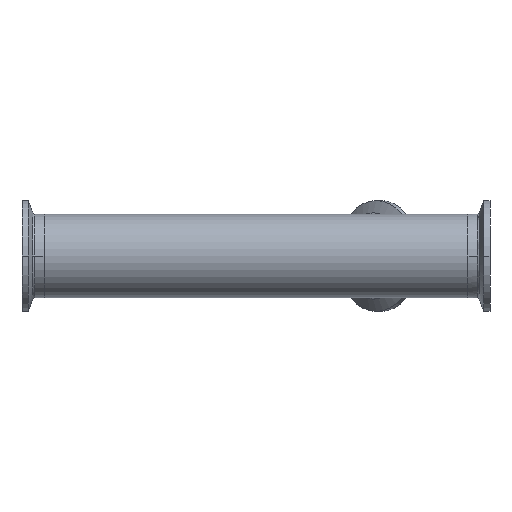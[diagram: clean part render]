
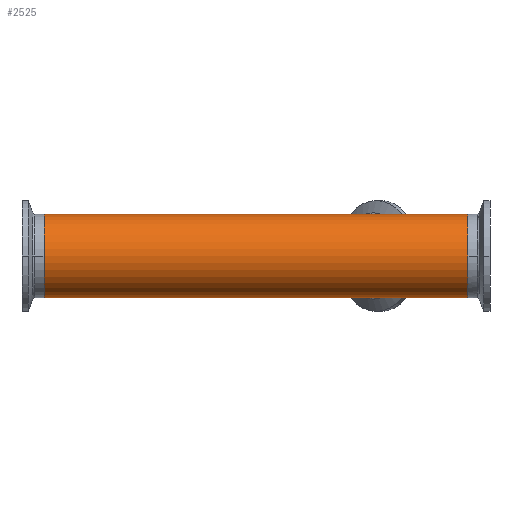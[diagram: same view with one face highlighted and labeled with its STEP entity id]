
A CAD part, front view. The second image highlights one B-rep face of the part: STEP entity #2525.
In plain terms, the highlighted cylindrical face has radius 19.05 mm (diameter 38.1 mm), a partial arc.
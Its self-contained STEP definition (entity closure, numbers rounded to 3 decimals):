
#133 = DIRECTION ( 'NONE',  ( 0., 0., -1. ) ) ;
#181 = VERTEX_POINT ( 'NONE', #3386 ) ;
#229 = DIRECTION ( 'NONE',  ( 0., 0., -1. ) ) ;
#263 = DIRECTION ( 'NONE',  ( 1., 0., 0. ) ) ;
#329 = CARTESIAN_POINT ( 'NONE',  ( 159.8, 0., -19.05 ) ) ;
#374 = EDGE_CURVE ( 'NONE', #4452, #181, #3936, .T. ) ;
#439 = VERTEX_POINT ( 'NONE', #1813 ) ;
#485 = CARTESIAN_POINT ( 'NONE',  ( -32.9, 0., 0. ) ) ;
#727 = VERTEX_POINT ( 'NONE', #731 ) ;
#731 = CARTESIAN_POINT ( 'NONE',  ( 159.8, 0., 19.05 ) ) ;
#828 = VERTEX_POINT ( 'NONE', #329 ) ;
#838 = AXIS2_PLACEMENT_3D ( 'NONE', #485, #3337, #133 ) ;
#998 = ORIENTED_EDGE ( 'NONE', *, *, #4096, .F. ) ;
#1041 = CYLINDRICAL_SURFACE ( 'NONE', #838, 19.05 ) ;
#1052 = CIRCLE ( 'NONE', #2065, 19.05 ) ;
#1079 = DIRECTION ( 'NONE',  ( 1., 0., 0. ) ) ;
#1152 = ORIENTED_EDGE ( 'NONE', *, *, #374, .F. ) ;
#1195 = LINE ( 'NONE', #3310, #3928 ) ;
#1506 = EDGE_CURVE ( 'NONE', #828, #727, #3406, .T. ) ;
#1740 = EDGE_CURVE ( 'NONE', #4452, #3839, #1052, .T. ) ;
#1744 = VECTOR ( 'NONE', #1079, 1000. ) ;
#1813 = CARTESIAN_POINT ( 'NONE',  ( 0., 0., -19.05 ) ) ;
#1872 = ORIENTED_EDGE ( 'NONE', *, *, #3829, .T. ) ;
#1976 = DIRECTION ( 'NONE',  ( 1., 0., 0. ) ) ;
#2065 = AXIS2_PLACEMENT_3D ( 'NONE', #2399, #263, #2760 ) ;
#2356 = DIRECTION ( 'NONE',  ( -1., 0., 0. ) ) ;
#2399 = CARTESIAN_POINT ( 'NONE',  ( -32.9, 0., 0. ) ) ;
#2525 = ADVANCED_FACE ( 'NONE', ( #2924 ), #1041, .T. ) ;
#2613 = EDGE_CURVE ( 'NONE', #3839, #439, #3883, .T. ) ;
#2666 = VECTOR ( 'NONE', #3171, 1000. ) ;
#2721 = LINE ( 'NONE', #2813, #1744 ) ;
#2760 = DIRECTION ( 'NONE',  ( 0., 0., -1. ) ) ;
#2813 = CARTESIAN_POINT ( 'NONE',  ( -32.9, 0., -19.05 ) ) ;
#2856 = AXIS2_PLACEMENT_3D ( 'NONE', #4478, #2356, #229 ) ;
#2924 = FACE_OUTER_BOUND ( 'NONE', #4544, .T. ) ;
#2931 = ORIENTED_EDGE ( 'NONE', *, *, #1740, .T. ) ;
#3095 = DIRECTION ( 'NONE',  ( 1., 0., 0. ) ) ;
#3171 = DIRECTION ( 'NONE',  ( 1., 0., 0. ) ) ;
#3310 = CARTESIAN_POINT ( 'NONE',  ( -32.9, 0., 19.05 ) ) ;
#3337 = DIRECTION ( 'NONE',  ( 1., 0., 0. ) ) ;
#3386 = CARTESIAN_POINT ( 'NONE',  ( 0., 0., 19.05 ) ) ;
#3406 = CIRCLE ( 'NONE', #2856, 19.05 ) ;
#3479 = CARTESIAN_POINT ( 'NONE',  ( -32.9, 0., 19.05 ) ) ;
#3653 = VECTOR ( 'NONE', #1976, 1000. ) ;
#3762 = CARTESIAN_POINT ( 'NONE',  ( -32.9, 0., -19.05 ) ) ;
#3800 = ORIENTED_EDGE ( 'NONE', *, *, #2613, .T. ) ;
#3829 = EDGE_CURVE ( 'NONE', #439, #828, #2721, .T. ) ;
#3839 = VERTEX_POINT ( 'NONE', #4285 ) ;
#3840 = ORIENTED_EDGE ( 'NONE', *, *, #1506, .T. ) ;
#3883 = LINE ( 'NONE', #3762, #3653 ) ;
#3892 = CARTESIAN_POINT ( 'NONE',  ( -32.9, 0., 19.05 ) ) ;
#3928 = VECTOR ( 'NONE', #3095, 1000. ) ;
#3936 = LINE ( 'NONE', #3892, #2666 ) ;
#4096 = EDGE_CURVE ( 'NONE', #181, #727, #1195, .T. ) ;
#4285 = CARTESIAN_POINT ( 'NONE',  ( -32.9, 0., -19.05 ) ) ;
#4452 = VERTEX_POINT ( 'NONE', #3479 ) ;
#4478 = CARTESIAN_POINT ( 'NONE',  ( 159.8, 0., 0. ) ) ;
#4544 = EDGE_LOOP ( 'NONE', ( #1152, #2931, #3800, #1872, #3840, #998 ) ) ;
